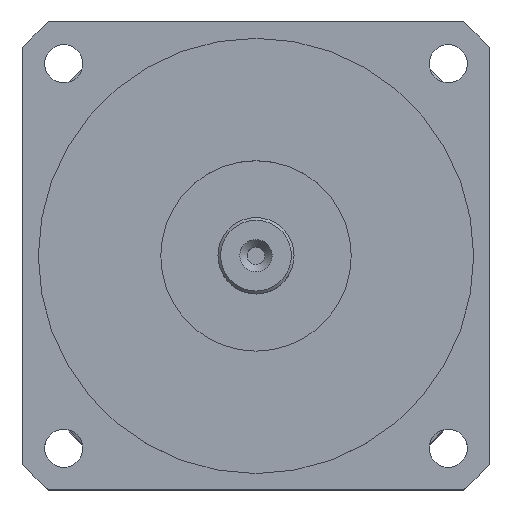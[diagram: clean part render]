
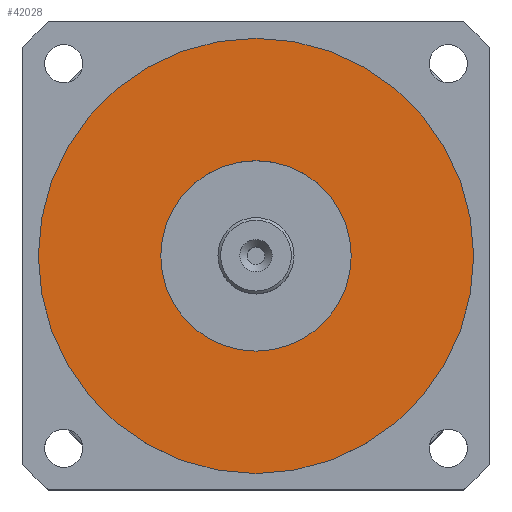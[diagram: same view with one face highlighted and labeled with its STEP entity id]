
A CAD part, top view. The second image highlights one B-rep face of the part: STEP entity #42028.
In plain terms, the highlighted planar face has unit normal (0, 0, 1).
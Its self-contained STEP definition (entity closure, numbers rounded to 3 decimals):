
#10643=VERTEX_POINT('',#54028);
#10644=VERTEX_POINT('',#54032);
#14565=CIRCLE('',#45179,17.5);
#14566=CIRCLE('',#45182,40.);
#16696=EDGE_CURVE('',#10643,#10643,#14565,.T.);
#16697=EDGE_CURVE('',#10644,#10644,#14566,.T.);
#23214=ORIENTED_EDGE('',*,*,#16697,.F.);
#23215=ORIENTED_EDGE('',*,*,#16696,.T.);
#35591=EDGE_LOOP('',(#23214));
#35592=EDGE_LOOP('',(#23215));
#38829=FACE_BOUND('',#35591,.T.);
#38830=FACE_BOUND('',#35592,.T.);
#42028=ADVANCED_FACE('',(#38829,#38830),#51625,.F.);
#45179=AXIS2_PLACEMENT_3D('',#54027,#136776,#136777);
#45182=AXIS2_PLACEMENT_3D('',#54031,#136781,#136782);
#45184=AXIS2_PLACEMENT_3D('',#54035,#136785,$);
#51625=PLANE('',#45184);
#54027=CARTESIAN_POINT('',(0.,0.,177.));
#54028=CARTESIAN_POINT('',(17.5,0.,177.));
#54031=CARTESIAN_POINT('',(0.,0.,177.));
#54032=CARTESIAN_POINT('',(40.,0.,177.));
#54035=CARTESIAN_POINT('',(0.,0.,177.));
#136776=DIRECTION('',(0.,0.,-1.));
#136777=DIRECTION('',(-17.5,0.,0.));
#136781=DIRECTION('',(0.,0.,-1.));
#136782=DIRECTION('',(-40.,0.,0.));
#136785=DIRECTION('',(0.,0.,-1.));
